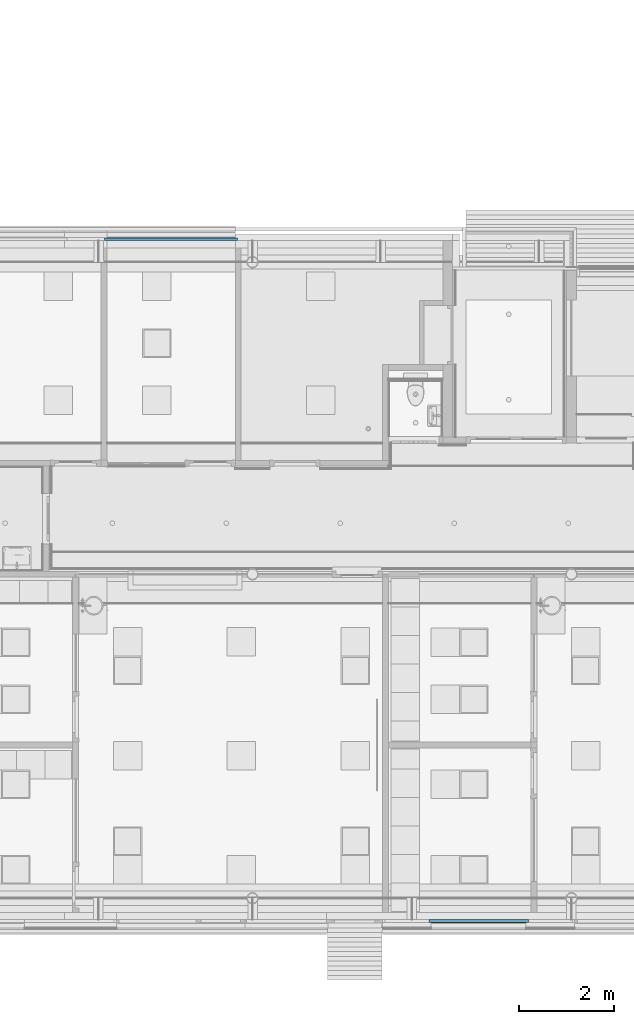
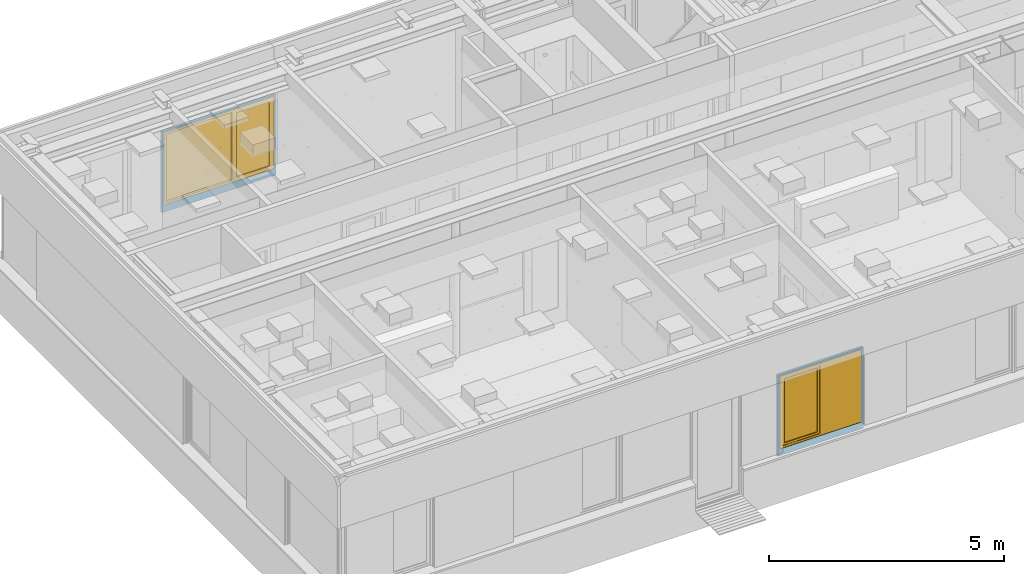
# One storey, part 2 of 347: 2 members, 2 windows, 2 openings.
"""IFC2X3 building model written with IfcOpenShell, lengths in millimetres."""

from ifc_helpers import new_model, entity, si_unit, converted_unit, derived_unit, money_unit, direction, frame, origin_with_axes, place, context, subcontext, project, spatial, open_shell, faceted_brep, surface_model, source, transform, mapped, material, type_object, type_shapes, element, fill, save


model = new_model("IFC2X3")

# Units and contexts
model_context = context("Model", 3, precision=0.01, world=origin_with_axes(), true_north=direction((0.0, 1.0)))
plan_context = context("Plan", 3, precision=0.01, world=origin_with_axes(), true_north=direction((0.0, 1.0)))
body_context = subcontext(model_context, "Body", "Model", "MODEL_VIEW")
ifc_project = project(units=[si_unit("LENGTHUNIT", "METRE", prefix="MILLI"), si_unit("AREAUNIT", "SQUARE_METRE"), si_unit("VOLUMEUNIT", "CUBIC_METRE"), converted_unit("PLANEANGLEUNIT", "DEGREE", entity("IfcPlaneAngleMeasure", 0.0174532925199), si_unit("PLANEANGLEUNIT", "RADIAN"), dimensions=[0, 0, 0, 0, 0, 0, 0]), money_unit("EUR"), converted_unit("TIMEUNIT", "Year", entity("IfcTimeMeasure", 31556926.0), si_unit("TIMEUNIT", "SECOND"), dimensions=[0, 0, 1, 0, 0, 0, 0]), si_unit("MASSUNIT", "GRAM", prefix="KILO"), si_unit("THERMODYNAMICTEMPERATUREUNIT", "DEGREE_CELSIUS"), si_unit("LUMINOUSINTENSITYUNIT", "LUMEN"), si_unit("ENERGYUNIT", "JOULE", prefix="MEGA"), derived_unit("THERMALCONDUCTANCEUNIT", [(si_unit("POWERUNIT", "WATT"), 1), (si_unit("LENGTHUNIT", "METRE"), -1), (si_unit("THERMODYNAMICTEMPERATUREUNIT", "KELVIN"), -1)]), derived_unit("SPECIFICHEATCAPACITYUNIT", [(si_unit("ENERGYUNIT", "JOULE"), 1), (si_unit("MASSUNIT", "GRAM", prefix="KILO"), -1), (si_unit("THERMODYNAMICTEMPERATUREUNIT", "KELVIN"), -1)]), derived_unit("MASSDENSITYUNIT", [(si_unit("MASSUNIT", "GRAM", prefix="KILO"), 1), (si_unit("VOLUMEUNIT", "CUBIC_METRE"), -1)])], contexts=[model_context, plan_context])

# Site, building, storey
site_placement = place(None, origin_with_axes())
site = spatial("IfcSite", under=ifc_project, at=site_placement, Name="Site", CompositionType="ELEMENT")
building_placement = place(site_placement, origin_with_axes())
building = spatial("IfcBuilding", under=site, at=building_placement, Name="Naam gebouw", CompositionType="ELEMENT")
storey_placement = place(building_placement, origin_with_axes())
storey = spatial("IfcBuildingStorey", under=building, at=storey_placement, Name="begane grond", CompositionType="ELEMENT", Elevation=0.0)

# Member, opening, window
ifc_material = material(Name="31 pui/kozijn")
member_type = type_object("IfcMemberType", Name="31 pui/kozijn 62", PredefinedType="MEMBER")
member_1_placement = place(storey_placement, frame((8675.00271367, 19150.0, 535.00000231), z_axis=(0.0, 0.0, 1.0), x_axis=(1.0, 2.24637832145e-09, 0.0)))
member_1 = element("IfcMember", 1, at=member_1_placement, inside=storey, type_object=member_type, material=ifc_material, Name="21_31 buitenkozijn pui", ObjectType="MEMBER", context=body_context, shape_type="Brep", body=[
    faceted_brep([(2800.0, -6.28985930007e-06, 0.0), (2800.0, -6.28985930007e-06, 2100.0), (0.0, 0.0, 2100.0), (0.0, 0.0, 0.0), (49.9972863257, -1.12311937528e-07, 184.99999769), (49.9972863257, -1.12311937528e-07, 2064.99999769), (2749.99728633, -6.17753315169e-06, 2064.99999769), (2749.99728633, -6.17753315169e-06, 184.99999769), (2800.00000014, 61.9999937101, 0.0), (2800.00000014, 61.9999937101, 2100.0), (1.39275257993e-07, 62.0, 2100.0), (1.39275257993e-07, 62.0, 0.0), (49.997286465, 61.9999998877, 184.99999769), (49.997286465, 61.9999998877, 2064.99999769), (2749.99728646, 61.9999938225, 2064.99999769), (2749.99728646, 61.9999938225, 184.99999769)], [[[0, 1, 2, 3], [4, 5, 6, 7]], [[8, 9, 1, 0]], [[1, 9, 10, 2]], [[11, 3, 2, 10]], [[8, 0, 3, 11]], [[12, 13, 5, 4]], [[13, 14, 6, 5]], [[14, 15, 7, 6]], [[15, 12, 4, 7]], [[9, 8, 11, 10], [12, 15, 14, 13]]]),
])
opening_1_placement = place(member_1_placement, frame((1399.99728633, 0.0, 184.99999769), z_axis=(0.0, 0.0, 1.0), x_axis=(1.0, 0.0, 0.0)))
opening_1 = element("IfcOpeningElement", 2, at=opening_1_placement, cuts=member_1, Name="31_merk-AF", context=body_context, shape_type="Brep", body=[
    faceted_brep([(1350.0000003, 133.999996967, 0.0), (1350.0000003, 133.999996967, 1880.0), (1349.99999986, -62.0000030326, 1880.0), (1349.99999986, -62.0000030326, 0.0), (-1349.9999997, 134.000003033, 0.0), (-1349.9999997, 134.000003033, 1880.0), (-1350.00000014, -61.9999969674, 1880.0), (-1350.00000014, -61.9999969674, 0.0)], [[[0, 1, 2, 3]], [[0, 4, 5, 1]], [[1, 5, 6, 2]], [[3, 2, 6, 7]], [[4, 0, 3, 7]], [[5, 4, 7, 6]]]),
])
window_style_1 = type_object("IfcWindowStyle", Name="Rmeerkeuze 25", ConstructionType="NOTDEFINED", OperationType="DOUBLE_PANEL_VERTICAL", ParameterTakesPrecedence=False, Sizeable=False)
shared_shape_1 = source(origin_with_axes(), body_context, "Body", "SurfaceModel", [
    faceted_brep([(-1296.0, -62.0, 1826.0), (-1311.0, -62.0, 1826.0), (-1311.0, 0.0, 1826.0), (-1350.0, 0.0, 1826.0), (-1350.0, -72.0, 1826.0), (-1296.0, -72.0, 1826.0), (-1296.0, -62.0, 54.0), (-1311.0, -62.0, 54.0), (-1311.0, 0.0, 54.0), (-1350.0, 0.0, 54.0), (-1350.0, -72.0, 54.0), (-1296.0, -72.0, 54.0)], [[[0, 1, 2, 3, 4, 5]], [[1, 0, 6, 7]], [[8, 2, 1, 7]], [[2, 8, 9, 3]], [[9, 10, 4, 3]], [[10, 11, 5, 4]], [[6, 0, 5, 11]], [[7, 6, 11, 10, 9, 8]]]),
    faceted_brep([(-362.0, 0.0, 1826.0), (-362.0, -62.0, 1826.0), (-377.0, -62.0, 1826.0), (-377.0, -72.0, 1826.0), (-323.0, -72.0, 1826.0), (-323.0, 0.0, 1826.0), (-362.0, 0.0, 54.0), (-362.0, -62.0, 54.0), (-377.0, -62.0, 54.0), (-377.0, -72.0, 54.0), (-323.0, -72.0, 54.0), (-323.0, 0.0, 54.0)], [[[0, 1, 2, 3, 4, 5]], [[1, 0, 6, 7]], [[8, 2, 1, 7]], [[2, 8, 9, 3]], [[9, 10, 4, 3]], [[5, 4, 10, 11]], [[6, 0, 5, 11]], [[7, 6, 11, 10, 9, 8]]]),
    faceted_brep([(-1296.0, -62.0, 54.0), (-1311.0, -62.0, 54.0), (-1311.0, 0.0, 54.0), (-1350.0, 0.0, 54.0), (-1350.0, -72.0, 54.0), (-1296.0, -72.0, 54.0), (-377.0, -62.0, 54.0), (-362.0, -62.0, 54.0), (-362.0, -62.0, 39.0), (-1311.0, -62.0, 39.0), (-1311.0, 0.0, 39.0), (-362.0, 0.0, 39.0), (-362.0, 0.0, 54.0), (-323.0, 0.0, 54.0), (1296.0, 0.0, 54.0), (1350.0, 0.0, 54.0), (1350.0, 0.0, 0.0), (-1350.0, 0.0, 0.0), (-1350.0, -72.0, 0.0), (1350.0, -72.0, 54.0), (1296.0, -72.0, 54.0), (-323.0, -72.0, 54.0), (-377.0, -72.0, 54.0), (1350.0, -72.0, 0.0)], [[[0, 1, 2, 3, 4, 5]], [[1, 0, 6, 7, 8, 9]], [[10, 2, 1, 9]], [[11, 12, 13, 14, 15, 16, 17, 3, 2, 10]], [[17, 18, 4, 3]], [[19, 20, 21, 22, 5, 4, 18, 23]], [[6, 0, 5, 22]], [[7, 6, 22, 21, 13, 12]], [[7, 12, 11, 8]], [[11, 10, 9, 8]], [[13, 21, 20, 14]], [[14, 20, 19, 15]], [[15, 19, 23, 16]], [[16, 23, 18, 17]]]),
    faceted_brep([(-362.0, 0.0, 1826.0), (-362.0, 0.0, 1841.0), (-1311.0, 0.0, 1841.0), (-1311.0, 0.0, 1826.0), (-1350.0, 0.0, 1826.0), (-1350.0, 0.0, 1880.0), (1350.0, 0.0, 1880.0), (1350.0, 0.0, 1826.0), (1296.0, 0.0, 1826.0), (-323.0, 0.0, 1826.0), (-362.0, -62.0, 1826.0), (-362.0, -62.0, 1841.0), (-1311.0, -62.0, 1841.0), (-1311.0, -62.0, 1826.0), (-1296.0, -62.0, 1826.0), (-1296.0, -72.0, 1826.0), (-1350.0, -72.0, 1826.0), (-1350.0, -72.0, 1880.0), (1350.0, -72.0, 1880.0), (1350.0, -72.0, 1826.0), (1296.0, -72.0, 1826.0), (-323.0, -72.0, 1826.0), (-377.0, -72.0, 1826.0), (-377.0, -62.0, 1826.0)], [[[0, 1, 2, 3, 4, 5, 6, 7, 8, 9]], [[1, 0, 10, 11]], [[2, 1, 11, 12]], [[3, 2, 12, 13]], [[13, 14, 15, 16, 4, 3]], [[4, 16, 17, 5]], [[5, 17, 18, 6]], [[6, 18, 19, 7]], [[7, 19, 20, 8]], [[8, 20, 21, 9]], [[10, 0, 9, 21, 22, 23]], [[14, 13, 12, 11, 10, 23]], [[14, 23, 22, 15]], [[22, 21, 20, 19, 18, 17, 16, 15]]]),
    faceted_brep([(1296.0, -72.0, 1826.0), (1350.0, -72.0, 1826.0), (1350.0, 0.0, 1826.0), (1296.0, 0.0, 1826.0), (1296.0, -72.0, 54.0), (1350.0, -72.0, 54.0), (1350.0, 0.0, 54.0), (1296.0, 0.0, 54.0)], [[[0, 1, 2, 3]], [[0, 4, 5, 1]], [[1, 5, 6, 2]], [[3, 2, 6, 7]], [[4, 0, 3, 7]], [[5, 4, 7, 6]]]),
    surface_model("IfcShellBasedSurfaceModel", [(1296.0, -72.0, 54.0), (1296.0, -72.0, 1826.0), (-323.0, -72.0, 1826.0), (-323.0, -72.0, 54.0)], [open_shell([[[0, 1, 2, 3]]])]),
    surface_model("IfcShellBasedSurfaceModel", [(1296.0, -52.0, 54.0), (-323.0, -52.0, 54.0), (-323.0, -52.0, 1826.0), (1296.0, -52.0, 1826.0)], [open_shell([[[0, 1, 2, 3]]])]),
    faceted_brep([(-430.0, -62.0, 1773.0), (-362.0, -62.0, 1773.0), (-362.0, 0.0, 1773.0), (-430.0, 0.0, 1773.0), (-430.0, -62.0, 107.0), (-362.0, -62.0, 107.0), (-362.0, 0.0, 107.0), (-430.0, 0.0, 107.0)], [[[0, 1, 2, 3]], [[0, 4, 5, 1]], [[1, 5, 6, 2]], [[3, 2, 6, 7]], [[4, 0, 3, 7]], [[5, 4, 7, 6]]]),
    faceted_brep([(-1243.0, -62.0, 107.0), (-1311.0, -62.0, 107.0), (-1311.0, 0.0, 107.0), (-1243.0, 0.0, 107.0), (-1243.0, -62.0, 1773.0), (-1311.0, -62.0, 1773.0), (-1311.0, 0.0, 1773.0), (-1243.0, 0.0, 1773.0)], [[[0, 1, 2, 3]], [[0, 4, 5, 1]], [[1, 5, 6, 2]], [[3, 2, 6, 7]], [[4, 0, 3, 7]], [[5, 4, 7, 6]]]),
    faceted_brep([(-1311.0, -62.0, 39.0), (-1311.0, -62.0, 107.0), (-1311.0, 0.0, 107.0), (-1311.0, 0.0, 39.0), (-362.0, -62.0, 39.0), (-362.0, -62.0, 107.0), (-430.0, -62.0, 107.0), (-1243.0, -62.0, 107.0), (-1243.0, 0.0, 107.0), (-430.0, 0.0, 107.0), (-362.0, 0.0, 107.0), (-362.0, 0.0, 39.0)], [[[0, 1, 2, 3]], [[0, 4, 5, 6, 7, 1]], [[1, 7, 8, 2]], [[3, 2, 8, 9, 10, 11]], [[4, 0, 3, 11]], [[5, 4, 11, 10]], [[6, 5, 10, 9]], [[7, 6, 9, 8]]]),
    faceted_brep([(-362.0, -62.0, 1841.0), (-362.0, -62.0, 1773.0), (-362.0, 0.0, 1773.0), (-362.0, 0.0, 1841.0), (-1311.0, -62.0, 1841.0), (-1311.0, -62.0, 1773.0), (-1243.0, -62.0, 1773.0), (-430.0, -62.0, 1773.0), (-430.0, 0.0, 1773.0), (-1243.0, 0.0, 1773.0), (-1311.0, 0.0, 1773.0), (-1311.0, 0.0, 1841.0)], [[[0, 1, 2, 3]], [[0, 4, 5, 6, 7, 1]], [[1, 7, 8, 2]], [[3, 2, 8, 9, 10, 11]], [[4, 0, 3, 11]], [[5, 4, 11, 10]], [[6, 5, 10, 9]], [[7, 6, 9, 8]]]),
    surface_model("IfcShellBasedSurfaceModel", [(-430.0, -41.0, 107.0), (-430.0, -41.0, 1773.0), (-1243.0, -41.0, 1773.0), (-1243.0, -41.0, 107.0)], [open_shell([[[0, 1, 2, 3]]])]),
    surface_model("IfcShellBasedSurfaceModel", [(-430.0, -21.0, 107.0), (-1243.0, -21.0, 107.0), (-1243.0, -21.0, 1773.0), (-430.0, -21.0, 1773.0)], [open_shell([[[0, 1, 2, 3]]])]),
])
type_shapes(window_style_1, [shared_shape_1])
window_1_placement = place(opening_1_placement, frame((1350.0, 0.0, 0.0), z_axis=(0.0, 0.0, 1.0), x_axis=(-1.0, 0.0, 0.0)))
window_1 = element("IfcWindow", 3, at=window_1_placement, inside=storey, type_object=window_style_1, Name="31_merk-AF", ObjectType="WINDOW", OverallHeight=1880.0, OverallWidth=2700.0, context=body_context, shape_type="MappedRepresentation", body=[
    mapped(shared_shape_1, transform((1350.0, 3.14492254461e-06, 0.0))),
])
fill(opening_1, window_1)

member_2_placement = place(storey_placement, frame((17599.9986432, 4850.0, 535.00000231), z_axis=(0.0, 0.0, 1.0), x_axis=(-1.0, 0.0, 0.0)))
member_2 = element("IfcMember", 4, at=member_2_placement, inside=storey, type_object=member_type, material=ifc_material, Name="21_31 buitenkozijn pui", ObjectType="MEMBER", context=body_context, shape_type="Brep", body=[
    faceted_brep([(2100.0, 62.0, 2100.0), (2100.0, 62.0, 0.0), (0.0, 62.0, 0.0), (0.0, 62.0, 2100.0), (2049.99728633, 62.0, 184.99999769), (2049.99728633, 62.0, 2064.99999769), (49.9972863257, 62.0, 2064.99999769), (49.9972863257, 62.0, 184.99999769), (2100.0, 0.0, 2100.0), (2100.0, 0.0, 0.0), (0.0, 0.0, 0.0), (0.0, 0.0, 2100.0), (2049.99728633, 0.0, 184.99999769), (2049.99728633, 0.0, 2064.99999769), (49.9972863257, 0.0, 2064.99999769), (49.9972863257, 0.0, 184.99999769)], [[[0, 1, 2, 3], [4, 5, 6, 7]], [[1, 0, 8, 9]], [[1, 9, 10, 2]], [[2, 10, 11, 3]], [[8, 0, 3, 11]], [[12, 13, 5, 4]], [[13, 14, 6, 5]], [[14, 15, 7, 6]], [[15, 12, 4, 7]], [[9, 8, 11, 10], [12, 15, 14, 13]]]),
])
opening_2_placement = place(member_2_placement, frame((1049.99728633, 0.0, 184.99999769), z_axis=(0.0, 0.0, 1.0), x_axis=(1.0, 0.0, 0.0)))
opening_2 = element("IfcOpeningElement", 5, at=opening_2_placement, cuts=member_2, Name="31_merk-AG", context=body_context, shape_type="Brep", body=[
    faceted_brep([(1000.0, 134.0, 0.0), (1000.0, 134.0, 1880.0), (1000.0, -62.0, 1880.0), (1000.0, -62.0, 0.0), (-1000.0, 134.0, 0.0), (-1000.0, 134.0, 1880.0), (-1000.0, -62.0, 1880.0), (-1000.0, -62.0, 0.0)], [[[0, 1, 2, 3]], [[0, 4, 5, 1]], [[1, 5, 6, 2]], [[3, 2, 6, 7]], [[4, 0, 3, 7]], [[5, 4, 7, 6]]]),
])
window_style_2 = type_object("IfcWindowStyle", Name="Rmeerkeuze 25", ConstructionType="NOTDEFINED", OperationType="DOUBLE_PANEL_VERTICAL", ParameterTakesPrecedence=False, Sizeable=False)
shared_shape_2 = source(origin_with_axes(), body_context, "Body", "SurfaceModel", [
    faceted_brep([(-946.0, -62.0, 1826.0), (-961.0, -62.0, 1826.0), (-961.0, 0.0, 1826.0), (-1000.0, 0.0, 1826.0), (-1000.0, -72.0, 1826.0), (-946.0, -72.0, 1826.0), (-946.0, -62.0, 54.0), (-961.0, -62.0, 54.0), (-961.0, 0.0, 54.0), (-1000.0, 0.0, 54.0), (-1000.0, -72.0, 54.0), (-946.0, -72.0, 54.0)], [[[0, 1, 2, 3, 4, 5]], [[1, 0, 6, 7]], [[8, 2, 1, 7]], [[2, 8, 9, 3]], [[9, 10, 4, 3]], [[10, 11, 5, 4]], [[6, 0, 5, 11]], [[7, 6, 11, 10, 9, 8]]]),
    faceted_brep([(-12.0, 0.0, 1826.0), (-12.0, -62.0, 1826.0), (-27.0, -62.0, 1826.0), (-27.0, -72.0, 1826.0), (27.0, -72.0, 1826.0), (27.0, 0.0, 1826.0), (-12.0, 0.0, 54.0), (-12.0, -62.0, 54.0), (-27.0, -62.0, 54.0), (-27.0, -72.0, 54.0), (27.0, -72.0, 54.0), (27.0, 0.0, 54.0)], [[[0, 1, 2, 3, 4, 5]], [[1, 0, 6, 7]], [[8, 2, 1, 7]], [[2, 8, 9, 3]], [[9, 10, 4, 3]], [[5, 4, 10, 11]], [[6, 0, 5, 11]], [[7, 6, 11, 10, 9, 8]]]),
    faceted_brep([(-946.0, -62.0, 54.0), (-961.0, -62.0, 54.0), (-961.0, 0.0, 54.0), (-1000.0, 0.0, 54.0), (-1000.0, -72.0, 54.0), (-946.0, -72.0, 54.0), (-27.0, -62.0, 54.0), (-12.0, -62.0, 54.0), (-12.0, -62.0, 39.0), (-961.0, -62.0, 39.0), (-961.0, 0.0, 39.0), (-12.0, 0.0, 39.0), (-12.0, 0.0, 54.0), (27.0, 0.0, 54.0), (946.0, 0.0, 54.0), (1000.0, 0.0, 54.0), (1000.0, 0.0, 0.0), (-1000.0, 0.0, 0.0), (-1000.0, -72.0, 0.0), (1000.0, -72.0, 54.0), (946.0, -72.0, 54.0), (27.0, -72.0, 54.0), (-27.0, -72.0, 54.0), (1000.0, -72.0, 0.0)], [[[0, 1, 2, 3, 4, 5]], [[1, 0, 6, 7, 8, 9]], [[10, 2, 1, 9]], [[11, 12, 13, 14, 15, 16, 17, 3, 2, 10]], [[17, 18, 4, 3]], [[19, 20, 21, 22, 5, 4, 18, 23]], [[6, 0, 5, 22]], [[7, 6, 22, 21, 13, 12]], [[7, 12, 11, 8]], [[11, 10, 9, 8]], [[13, 21, 20, 14]], [[14, 20, 19, 15]], [[15, 19, 23, 16]], [[16, 23, 18, 17]]]),
    faceted_brep([(-12.0, 0.0, 1826.0), (-12.0, 0.0, 1841.0), (-961.0, 0.0, 1841.0), (-961.0, 0.0, 1826.0), (-1000.0, 0.0, 1826.0), (-1000.0, 0.0, 1880.0), (1000.0, 0.0, 1880.0), (1000.0, 0.0, 1826.0), (946.0, 0.0, 1826.0), (27.0, 0.0, 1826.0), (-12.0, -62.0, 1826.0), (-12.0, -62.0, 1841.0), (-961.0, -62.0, 1841.0), (-961.0, -62.0, 1826.0), (-946.0, -62.0, 1826.0), (-946.0, -72.0, 1826.0), (-1000.0, -72.0, 1826.0), (-1000.0, -72.0, 1880.0), (1000.0, -72.0, 1880.0), (1000.0, -72.0, 1826.0), (946.0, -72.0, 1826.0), (27.0, -72.0, 1826.0), (-27.0, -72.0, 1826.0), (-27.0, -62.0, 1826.0)], [[[0, 1, 2, 3, 4, 5, 6, 7, 8, 9]], [[1, 0, 10, 11]], [[2, 1, 11, 12]], [[3, 2, 12, 13]], [[13, 14, 15, 16, 4, 3]], [[4, 16, 17, 5]], [[5, 17, 18, 6]], [[6, 18, 19, 7]], [[7, 19, 20, 8]], [[8, 20, 21, 9]], [[10, 0, 9, 21, 22, 23]], [[14, 13, 12, 11, 10, 23]], [[14, 23, 22, 15]], [[22, 21, 20, 19, 18, 17, 16, 15]]]),
    faceted_brep([(946.0, -72.0, 1826.0), (1000.0, -72.0, 1826.0), (1000.0, 0.0, 1826.0), (946.0, 0.0, 1826.0), (946.0, -72.0, 54.0), (1000.0, -72.0, 54.0), (1000.0, 0.0, 54.0), (946.0, 0.0, 54.0)], [[[0, 1, 2, 3]], [[0, 4, 5, 1]], [[1, 5, 6, 2]], [[3, 2, 6, 7]], [[4, 0, 3, 7]], [[5, 4, 7, 6]]]),
    surface_model("IfcShellBasedSurfaceModel", [(946.0, -72.0, 54.0), (946.0, -72.0, 1826.0), (27.0, -72.0, 1826.0), (27.0, -72.0, 54.0)], [open_shell([[[0, 1, 2, 3]]])]),
    surface_model("IfcShellBasedSurfaceModel", [(946.0, -52.0, 54.0), (27.0, -52.0, 54.0), (27.0, -52.0, 1826.0), (946.0, -52.0, 1826.0)], [open_shell([[[0, 1, 2, 3]]])]),
    faceted_brep([(-80.0, -62.0, 1773.0), (-12.0, -62.0, 1773.0), (-12.0, 0.0, 1773.0), (-80.0, 0.0, 1773.0), (-80.0, -62.0, 107.0), (-12.0, -62.0, 107.0), (-12.0, 0.0, 107.0), (-80.0, 0.0, 107.0)], [[[0, 1, 2, 3]], [[0, 4, 5, 1]], [[1, 5, 6, 2]], [[3, 2, 6, 7]], [[4, 0, 3, 7]], [[5, 4, 7, 6]]]),
    faceted_brep([(-893.0, -62.0, 107.0), (-961.0, -62.0, 107.0), (-961.0, 0.0, 107.0), (-893.0, 0.0, 107.0), (-893.0, -62.0, 1773.0), (-961.0, -62.0, 1773.0), (-961.0, 0.0, 1773.0), (-893.0, 0.0, 1773.0)], [[[0, 1, 2, 3]], [[0, 4, 5, 1]], [[1, 5, 6, 2]], [[3, 2, 6, 7]], [[4, 0, 3, 7]], [[5, 4, 7, 6]]]),
    faceted_brep([(-961.0, -62.0, 39.0), (-961.0, -62.0, 107.0), (-961.0, 0.0, 107.0), (-961.0, 0.0, 39.0), (-12.0, -62.0, 39.0), (-12.0, -62.0, 107.0), (-80.0, -62.0, 107.0), (-893.0, -62.0, 107.0), (-893.0, 0.0, 107.0), (-80.0, 0.0, 107.0), (-12.0, 0.0, 107.0), (-12.0, 0.0, 39.0)], [[[0, 1, 2, 3]], [[0, 4, 5, 6, 7, 1]], [[1, 7, 8, 2]], [[3, 2, 8, 9, 10, 11]], [[4, 0, 3, 11]], [[5, 4, 11, 10]], [[6, 5, 10, 9]], [[7, 6, 9, 8]]]),
    faceted_brep([(-12.0, -62.0, 1841.0), (-12.0, -62.0, 1773.0), (-12.0, 0.0, 1773.0), (-12.0, 0.0, 1841.0), (-961.0, -62.0, 1841.0), (-961.0, -62.0, 1773.0), (-893.0, -62.0, 1773.0), (-80.0, -62.0, 1773.0), (-80.0, 0.0, 1773.0), (-893.0, 0.0, 1773.0), (-961.0, 0.0, 1773.0), (-961.0, 0.0, 1841.0)], [[[0, 1, 2, 3]], [[0, 4, 5, 6, 7, 1]], [[1, 7, 8, 2]], [[3, 2, 8, 9, 10, 11]], [[4, 0, 3, 11]], [[5, 4, 11, 10]], [[6, 5, 10, 9]], [[7, 6, 9, 8]]]),
    surface_model("IfcShellBasedSurfaceModel", [(-80.0, -41.0, 107.0), (-80.0, -41.0, 1773.0), (-893.0, -41.0, 1773.0), (-893.0, -41.0, 107.0)], [open_shell([[[0, 1, 2, 3]]])]),
    surface_model("IfcShellBasedSurfaceModel", [(-80.0, -21.0, 107.0), (-893.0, -21.0, 107.0), (-893.0, -21.0, 1773.0), (-80.0, -21.0, 1773.0)], [open_shell([[[0, 1, 2, 3]]])]),
])
type_shapes(window_style_2, [shared_shape_2])
window_2_placement = place(opening_2_placement, frame((1000.0, 0.0, 0.0), z_axis=(0.0, 0.0, 1.0), x_axis=(-1.0, 0.0, 0.0)))
window_2 = element("IfcWindow", 6, at=window_2_placement, inside=storey, type_object=window_style_2, Name="31_merk-AG", ObjectType="WINDOW", OverallHeight=1880.0, OverallWidth=2000.0, context=body_context, shape_type="MappedRepresentation", body=[
    mapped(shared_shape_2, transform((1000.0, 0.0, 0.0))),
])
fill(opening_2, window_2)

save(model, "model.ifc")
